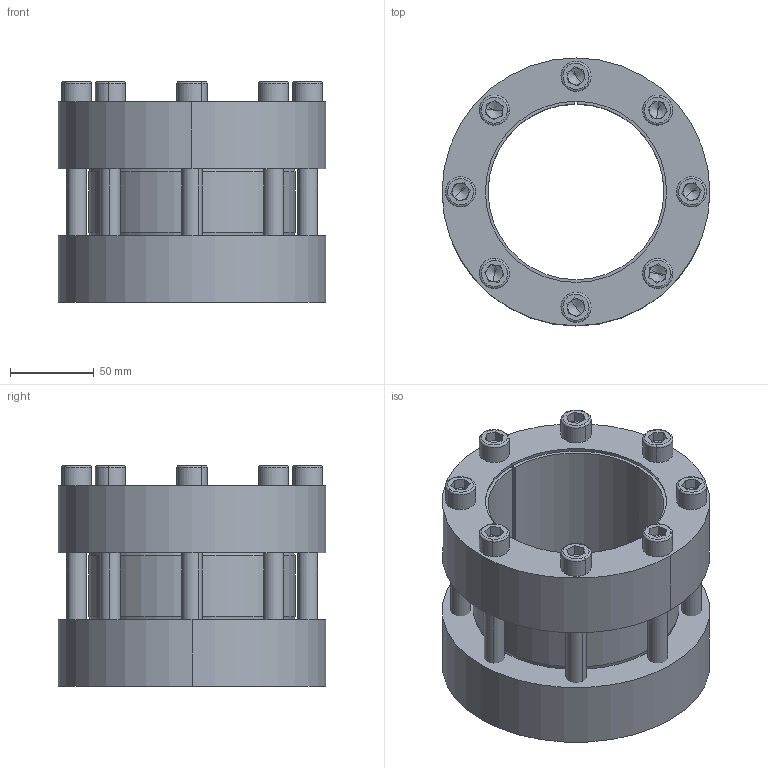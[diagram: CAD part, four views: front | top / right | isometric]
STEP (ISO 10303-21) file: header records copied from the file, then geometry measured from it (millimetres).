
FILE_DESCRIPTION (( 'STEP AP214' ), '1' );
FILE_NAME ('CONEX-M-105x160.step', '2013-04-06T13:26:10', ( 'Pc' ), ( '' ), 'SwSTEP 2.0', 'SolidWorks 2013', '' );
FILE_SCHEMA (( 'AUTOMOTIVE_DESIGN' ));
Length unit declared in the file: millimetre
Products named in the file (1): CONEX-M-105x160
Bounding box: 160 x 160 x 132 mm (x, y, z)
Volume: 1081000.7 mm3; surface area: 253376.5 mm2
Topology: 11 solids, 11 shells, 276 faces, 622 edges, 368 vertices
Faces by surface type: plane 128, cylinder 74, cone 42, torus 32
Entity records: 10804 total; most frequent: DIRECTION 1446, CARTESIAN_POINT 1275, ORIENTED_EDGE 1212, EDGE_CURVE 606, AXIS2_PLACEMENT_3D 567, VERTEX_POINT 368, EDGE_LOOP 328, LINE 312
